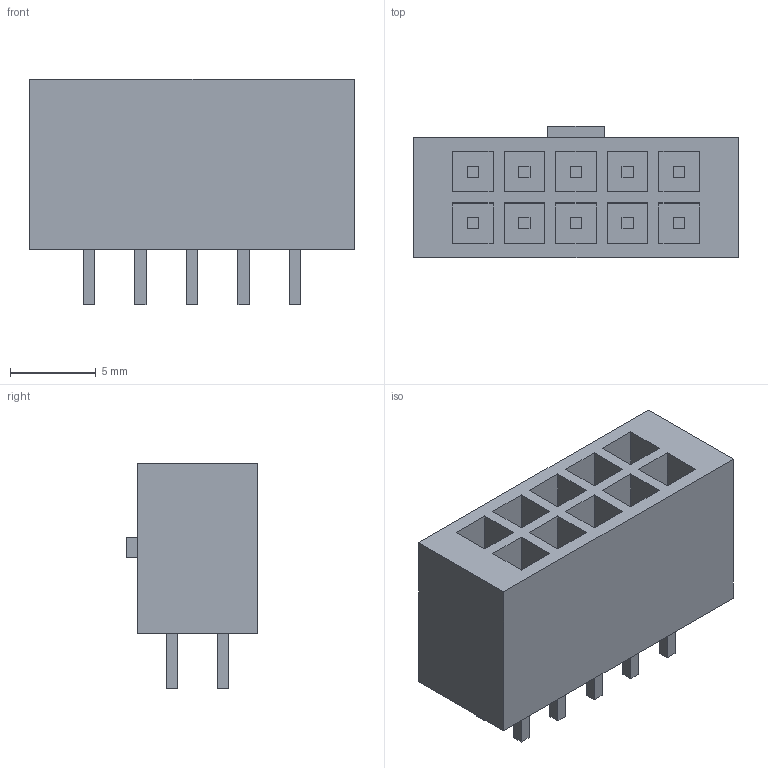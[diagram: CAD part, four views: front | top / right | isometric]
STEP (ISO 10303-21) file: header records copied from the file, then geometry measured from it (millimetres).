
FILE_DESCRIPTION(('Open CASCADE Model'),'2;1');
FILE_NAME('Open CASCADE Shape Model','2026-10-31T17:06:59',('Author'),( 'Open CASCADE'),'Open CASCADE STEP processor 7.9','Open CASCADE 7.9' ,'Unknown');
FILE_SCHEMA(('AUTOMOTIVE_DESIGN { 1 0 10303 214 1 1 1 1 }'));
Length unit declared in the file: millimetre
Products named in the file (12): MicroFit_10_visual; black_shroud; contact_1; contact_2; contact_3; contact_4; contact_5; contact_6; contact_7; contact_8; contact_9; contact_10
Assembly tree (11 placements, depth 2):
  MicroFit_10_visual
    black_shroud
    contact_1
    contact_2
    contact_3
    contact_4
    contact_5
    contact_6
    contact_7
    contact_8
    contact_9
    contact_10
Bounding box: 18.9 x 7.65 x 13.1 mm (x, y, z)
Volume: 951 mm3; surface area: 1778.5 mm2
Topology: 11 solids, 11 shells, 121 faces, 264 edges, 176 vertices
Faces by surface type: plane 121
Entity records: 6860 total; most frequent: CARTESIAN_POINT 1189, DIRECTION 970, LINE 704, VECTOR 704, ORIENTED_EDGE 528, PCURVE 528, DEFINITIONAL_REPRESENTATION 528, EDGE_CURVE 264
